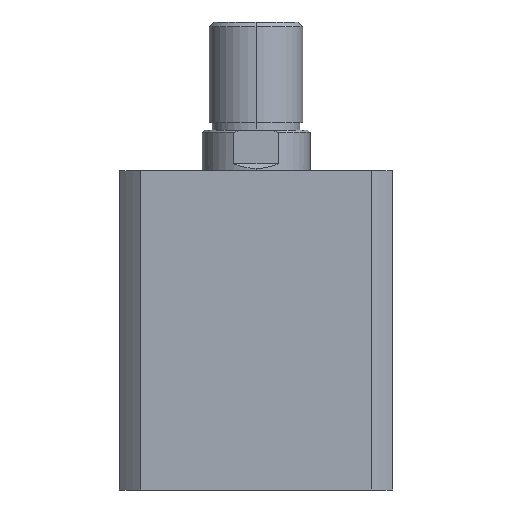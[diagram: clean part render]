
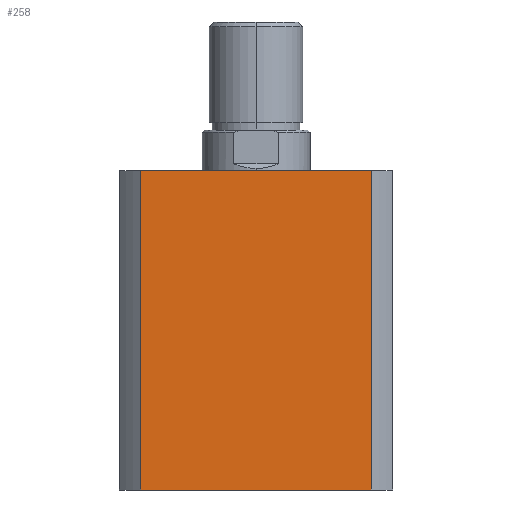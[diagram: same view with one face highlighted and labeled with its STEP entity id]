
A CAD part, left-side view. The second image highlights one B-rep face of the part: STEP entity #258.
In plain terms, the highlighted planar face has unit normal (-1, 0, 0).
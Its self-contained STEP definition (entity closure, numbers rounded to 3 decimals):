
#258 = ADVANCED_FACE ( 'NONE', ( #4862 ), #2635, .F. ) ;
#726 = EDGE_CURVE ( 'NONE', #1330, #1372, #4111, .T. ) ;
#760 = EDGE_CURVE ( 'NONE', #1274, #1330, #4156, .T. ) ;
#762 = EDGE_CURVE ( 'NONE', #1268, #1372, #4160, .T. ) ;
#763 = EDGE_CURVE ( 'NONE', #1274, #1268, #3618, .T. ) ;
#897 = EDGE_LOOP ( 'NONE', ( #1398, #1397, #1396, #1395 ) ) ;
#1268 = VERTEX_POINT ( 'NONE', #4313 ) ;
#1274 = VERTEX_POINT ( 'NONE', #4307 ) ;
#1330 = VERTEX_POINT ( 'NONE', #4250 ) ;
#1372 = VERTEX_POINT ( 'NONE', #4204 ) ;
#1395 = ORIENTED_EDGE ( 'NONE', *, *, #760, .T. ) ;
#1396 = ORIENTED_EDGE ( 'NONE', *, *, #763, .F. ) ;
#1397 = ORIENTED_EDGE ( 'NONE', *, *, #762, .F. ) ;
#1398 = ORIENTED_EDGE ( 'NONE', *, *, #726, .T. ) ;
#2632 = DIRECTION ( 'NONE',  ( 0., 0., -1. ) ) ;
#2633 = DIRECTION ( 'NONE',  ( 1., 0., 0. ) ) ;
#2635 = PLANE ( 'NONE',  #3094 ) ;
#2639 = CARTESIAN_POINT ( 'NONE',  ( -57., 0., 133. ) ) ;
#3094 = AXIS2_PLACEMENT_3D ( 'NONE', #2639, #2633, #2632 ) ;
#3176 = DIRECTION ( 'NONE',  ( 0., 0., -1. ) ) ;
#3179 = CARTESIAN_POINT ( 'NONE',  ( -57., 47.971, 133. ) ) ;
#3188 = DIRECTION ( 'NONE',  ( 0., 0., -1. ) ) ;
#3190 = CARTESIAN_POINT ( 'NONE',  ( -57., -47.971, 133. ) ) ;
#3360 = CARTESIAN_POINT ( 'NONE',  ( -57., 0., 133. ) ) ;
#3571 = CARTESIAN_POINT ( 'NONE',  ( -57., 0., 0. ) ) ;
#3572 = DIRECTION ( 'NONE',  ( 0., -1., 0. ) ) ;
#3618 = LINE ( 'NONE', #3360, #3619 ) ;
#3619 = VECTOR ( 'NONE', #4724, 1000. ) ;
#4111 = LINE ( 'NONE', #3571, #4115 ) ;
#4115 = VECTOR ( 'NONE', #3572, 1000. ) ;
#4156 = LINE ( 'NONE', #3179, #4159 ) ;
#4159 = VECTOR ( 'NONE', #3176, 1000. ) ;
#4160 = LINE ( 'NONE', #3190, #4162 ) ;
#4162 = VECTOR ( 'NONE', #3188, 1000. ) ;
#4204 = CARTESIAN_POINT ( 'NONE',  ( -57., -47.971, 0. ) ) ;
#4250 = CARTESIAN_POINT ( 'NONE',  ( -57., 47.971, 0. ) ) ;
#4307 = CARTESIAN_POINT ( 'NONE',  ( -57., 47.971, 133. ) ) ;
#4313 = CARTESIAN_POINT ( 'NONE',  ( -57., -47.971, 133. ) ) ;
#4724 = DIRECTION ( 'NONE',  ( 0., -1., 0. ) ) ;
#4862 = FACE_OUTER_BOUND ( 'NONE', #897, .T. ) ;
